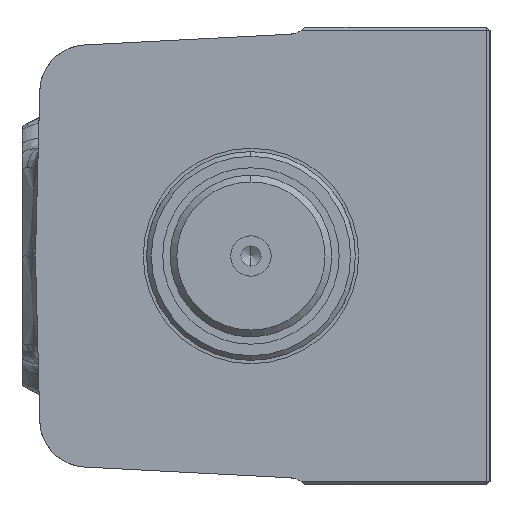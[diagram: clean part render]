
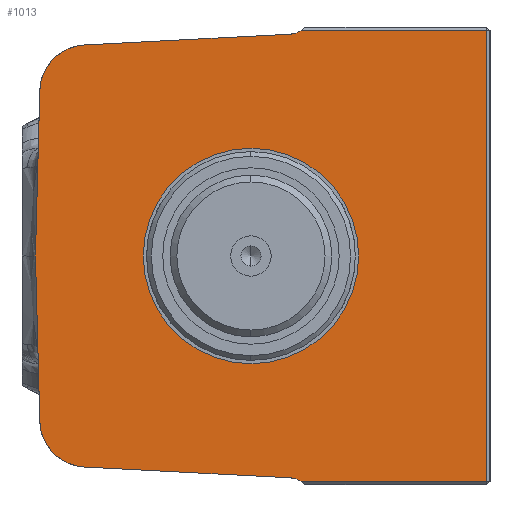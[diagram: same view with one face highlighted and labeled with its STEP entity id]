
A CAD part, left-side view. The second image highlights one B-rep face of the part: STEP entity #1013.
In plain terms, the highlighted planar face has unit normal (-1, 0, 0).
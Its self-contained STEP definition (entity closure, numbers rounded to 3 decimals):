
#291 = VERTEX_POINT ( 'NONE', #12792 ) ;
#627 = EDGE_CURVE ( 'NONE', #10461, #19560, #20503, .T. ) ;
#705 = EDGE_CURVE ( 'NONE', #9029, #5807, #17601, .T. ) ;
#775 = ORIENTED_EDGE ( 'NONE', *, *, #19660, .F. ) ;
#1013 = ADVANCED_FACE ( 'NONE', ( #23422, #3720 ), #17874, .T. ) ;
#1162 = DIRECTION ( 'NONE',  ( 0., -1., 0. ) ) ;
#1547 = DIRECTION ( 'NONE',  ( -1., 0., 0. ) ) ;
#1623 = EDGE_CURVE ( 'NONE', #8788, #9972, #9915, .T. ) ;
#2112 = VECTOR ( 'NONE', #2944, 1000. ) ;
#2944 = DIRECTION ( 'NONE',  ( 0., -0.026, -1. ) ) ;
#2948 = ORIENTED_EDGE ( 'NONE', *, *, #627, .T. ) ;
#3107 = EDGE_CURVE ( 'NONE', #15002, #8788, #23567, .T. ) ;
#3216 = LINE ( 'NONE', #23740, #22355 ) ;
#3244 = VERTEX_POINT ( 'NONE', #16594 ) ;
#3720 = FACE_BOUND ( 'NONE', #10098, .T. ) ;
#3728 = VECTOR ( 'NONE', #7214, 1000. ) ;
#3769 = CARTESIAN_POINT ( 'NONE',  ( -46.6, 24.36, -24.347 ) ) ;
#3968 = CARTESIAN_POINT ( 'NONE',  ( -46.6, 0., 0. ) ) ;
#3980 = DIRECTION ( 'NONE',  ( 0., -0.999, -0.052 ) ) ;
#4059 = ORIENTED_EDGE ( 'NONE', *, *, #1623, .T. ) ;
#4065 = DIRECTION ( 'NONE',  ( 1., 0., 0. ) ) ;
#4360 = ORIENTED_EDGE ( 'NONE', *, *, #9676, .T. ) ;
#4790 = CARTESIAN_POINT ( 'NONE',  ( -46.6, -35.5, -33.5 ) ) ;
#4848 = CARTESIAN_POINT ( 'NONE',  ( -46.6, -7.444, -33.5 ) ) ;
#5628 = DIRECTION ( 'NONE',  ( 0., 0., 1. ) ) ;
#5721 = VECTOR ( 'NONE', #3980, 1000. ) ;
#5767 = ORIENTED_EDGE ( 'NONE', *, *, #16831, .T. ) ;
#5805 = DIRECTION ( 'NONE',  ( 0., -1., 0. ) ) ;
#5807 = VERTEX_POINT ( 'NONE', #11850 ) ;
#6068 = CARTESIAN_POINT ( 'NONE',  ( -46.6, 24.36, 24.347 ) ) ;
#6117 = VERTEX_POINT ( 'NONE', #14522 ) ;
#6602 = CIRCLE ( 'NONE', #13753, 16. ) ;
#6723 = AXIS2_PLACEMENT_3D ( 'NONE', #19835, #8740, #21687 ) ;
#6963 = DIRECTION ( 'NONE',  ( 1., 0., 0. ) ) ;
#7016 = LINE ( 'NONE', #15875, #2112 ) ;
#7076 = AXIS2_PLACEMENT_3D ( 'NONE', #6068, #11755, #13619 ) ;
#7138 = EDGE_CURVE ( 'NONE', #9993, #22602, #7016, .T. ) ;
#7214 = DIRECTION ( 'NONE',  ( 0., 1., 0. ) ) ;
#7602 = CARTESIAN_POINT ( 'NONE',  ( -46.6, -35., -33.5 ) ) ;
#8045 = CARTESIAN_POINT ( 'NONE',  ( -46.6, -5.85, 32.94 ) ) ;
#8345 = DIRECTION ( 'NONE',  ( 0., 0., 1. ) ) ;
#8740 = DIRECTION ( 'NONE',  ( -1., 0., 0. ) ) ;
#8782 = EDGE_CURVE ( 'NONE', #3244, #6117, #6602, .T. ) ;
#8788 = VERTEX_POINT ( 'NONE', #7602 ) ;
#9029 = VERTEX_POINT ( 'NONE', #23798 ) ;
#9234 = VERTEX_POINT ( 'NONE', #8045 ) ;
#9354 = CARTESIAN_POINT ( 'NONE',  ( -46.6, 31.978, 0.837 ) ) ;
#9676 = EDGE_CURVE ( 'NONE', #19560, #15002, #16960, .T. ) ;
#9915 = LINE ( 'NONE', #19218, #19743 ) ;
#9972 = VERTEX_POINT ( 'NONE', #11198 ) ;
#9993 = VERTEX_POINT ( 'NONE', #18529 ) ;
#10098 = EDGE_LOOP ( 'NONE', ( #15760, #12752 ) ) ;
#10366 = ORIENTED_EDGE ( 'NONE', *, *, #7138, .T. ) ;
#10461 = VERTEX_POINT ( 'NONE', #19890 ) ;
#10506 = AXIS2_PLACEMENT_3D ( 'NONE', #14498, #1547, #12640 ) ;
#10761 = CARTESIAN_POINT ( 'NONE',  ( -46.6, -5.85, -32.94 ) ) ;
#11011 = AXIS2_PLACEMENT_3D ( 'NONE', #15175, #4065, #17009 ) ;
#11198 = CARTESIAN_POINT ( 'NONE',  ( -46.6, -35., 33.5 ) ) ;
#11223 = DIRECTION ( 'NONE',  ( 0., -0.026, 1. ) ) ;
#11755 = DIRECTION ( 'NONE',  ( -1., 0., 0. ) ) ;
#11823 = AXIS2_PLACEMENT_3D ( 'NONE', #18044, #6963, #19921 ) ;
#11850 = CARTESIAN_POINT ( 'NONE',  ( -46.6, 31.358, 24.53 ) ) ;
#12378 = EDGE_CURVE ( 'NONE', #6117, #3244, #15777, .T. ) ;
#12640 = DIRECTION ( 'NONE',  ( 0., 0., 1. ) ) ;
#12752 = ORIENTED_EDGE ( 'NONE', *, *, #12378, .F. ) ;
#12792 = CARTESIAN_POINT ( 'NONE',  ( -46.6, -7.444, 33.5 ) ) ;
#13619 = DIRECTION ( 'NONE',  ( 0., 0., 1. ) ) ;
#13753 = AXIS2_PLACEMENT_3D ( 'NONE', #3968, #16926, #5805 ) ;
#14498 = CARTESIAN_POINT ( 'NONE',  ( -46.6, -35.5, -34. ) ) ;
#14522 = CARTESIAN_POINT ( 'NONE',  ( -46.6, 16., 0. ) ) ;
#15002 = VERTEX_POINT ( 'NONE', #4848 ) ;
#15175 = CARTESIAN_POINT ( 'NONE',  ( -46.6, -5.693, -35.936 ) ) ;
#15760 = ORIENTED_EDGE ( 'NONE', *, *, #8782, .F. ) ;
#15777 = CIRCLE ( 'NONE', #6723, 16. ) ;
#15875 = CARTESIAN_POINT ( 'NONE',  ( -46.6, 31.978, -0.837 ) ) ;
#16426 = DIRECTION ( 'NONE',  ( 0., -0.999, 0.052 ) ) ;
#16594 = CARTESIAN_POINT ( 'NONE',  ( -46.6, -16., 0. ) ) ;
#16665 = CIRCLE ( 'NONE', #23377, 7. ) ;
#16717 = DIRECTION ( 'NONE',  ( 1., 0., 0. ) ) ;
#16831 = EDGE_CURVE ( 'NONE', #291, #9234, #19936, .T. ) ;
#16926 = DIRECTION ( 'NONE',  ( -1., 0., 0. ) ) ;
#16951 = ORIENTED_EDGE ( 'NONE', *, *, #21134, .F. ) ;
#16960 = CIRCLE ( 'NONE', #11011, 3. ) ;
#17009 = DIRECTION ( 'NONE',  ( 0., 0., 1. ) ) ;
#17183 = EDGE_LOOP ( 'NONE', ( #4360, #17686, #4059, #21499, #5767, #20221, #19707, #16951, #10366, #775, #2948 ) ) ;
#17601 = CIRCLE ( 'NONE', #7076, 7. ) ;
#17686 = ORIENTED_EDGE ( 'NONE', *, *, #3107, .T. ) ;
#17874 = PLANE ( 'NONE',  #10506 ) ;
#18044 = CARTESIAN_POINT ( 'NONE',  ( -46.6, -5.693, 35.936 ) ) ;
#18058 = EDGE_CURVE ( 'NONE', #9029, #9234, #3216, .T. ) ;
#18310 = CARTESIAN_POINT ( 'NONE',  ( -46.6, -35.5, 33.5 ) ) ;
#18529 = CARTESIAN_POINT ( 'NONE',  ( -46.6, 32., 0. ) ) ;
#18558 = EDGE_CURVE ( 'NONE', #9972, #291, #23433, .T. ) ;
#18643 = VECTOR ( 'NONE', #1162, 1000. ) ;
#18919 = LINE ( 'NONE', #9354, #23858 ) ;
#19218 = CARTESIAN_POINT ( 'NONE',  ( -46.6, -35., -34. ) ) ;
#19265 = CARTESIAN_POINT ( 'NONE',  ( -46.6, 31.358, -24.53 ) ) ;
#19560 = VERTEX_POINT ( 'NONE', #10761 ) ;
#19660 = EDGE_CURVE ( 'NONE', #10461, #22602, #16665, .T. ) ;
#19707 = ORIENTED_EDGE ( 'NONE', *, *, #705, .T. ) ;
#19743 = VECTOR ( 'NONE', #8345, 1000. ) ;
#19835 = CARTESIAN_POINT ( 'NONE',  ( -46.6, 0., 0. ) ) ;
#19890 = CARTESIAN_POINT ( 'NONE',  ( -46.6, 24.726, -31.337 ) ) ;
#19921 = DIRECTION ( 'NONE',  ( 0., 0., 1. ) ) ;
#19936 = CIRCLE ( 'NONE', #11823, 3. ) ;
#20221 = ORIENTED_EDGE ( 'NONE', *, *, #18058, .F. ) ;
#20503 = LINE ( 'NONE', #22530, #5721 ) ;
#21134 = EDGE_CURVE ( 'NONE', #9993, #5807, #18919, .T. ) ;
#21499 = ORIENTED_EDGE ( 'NONE', *, *, #18558, .T. ) ;
#21687 = DIRECTION ( 'NONE',  ( 0., -1., 0. ) ) ;
#22355 = VECTOR ( 'NONE', #16426, 1000. ) ;
#22530 = CARTESIAN_POINT ( 'NONE',  ( -46.6, 1.706, -32.544 ) ) ;
#22602 = VERTEX_POINT ( 'NONE', #19265 ) ;
#23377 = AXIS2_PLACEMENT_3D ( 'NONE', #3769, #16717, #5628 ) ;
#23422 = FACE_OUTER_BOUND ( 'NONE', #17183, .T. ) ;
#23433 = LINE ( 'NONE', #18310, #3728 ) ;
#23567 = LINE ( 'NONE', #4790, #18643 ) ;
#23740 = CARTESIAN_POINT ( 'NONE',  ( -46.6, 1.706, 32.544 ) ) ;
#23798 = CARTESIAN_POINT ( 'NONE',  ( -46.6, 24.726, 31.337 ) ) ;
#23858 = VECTOR ( 'NONE', #11223, 1000. ) ;
